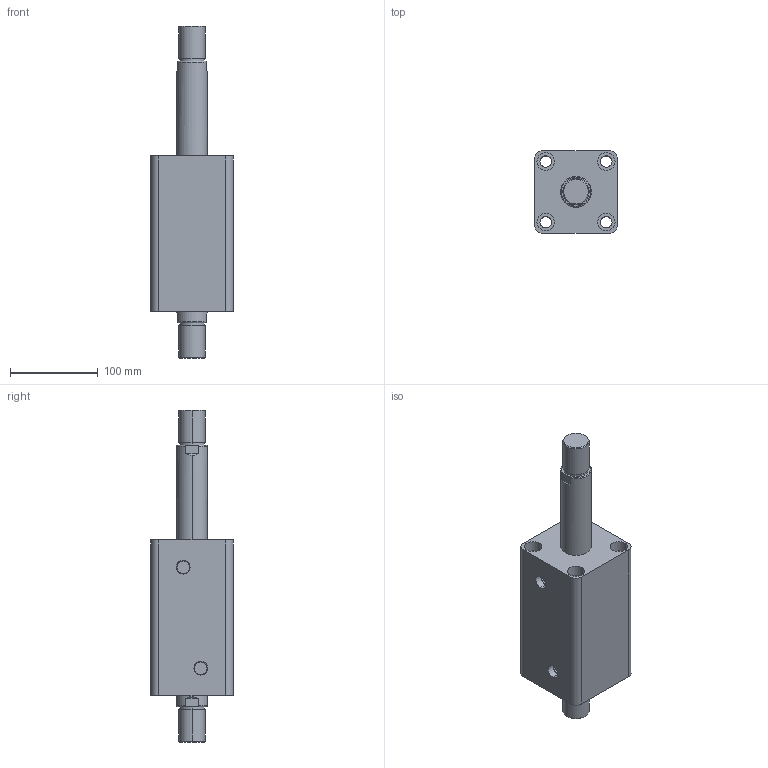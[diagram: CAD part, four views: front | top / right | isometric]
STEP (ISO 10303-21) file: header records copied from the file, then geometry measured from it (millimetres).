
FILE_DESCRIPTION (( 'STEP AP203' ), '1' );
FILE_NAME ('HTB-SW63-95W.STEP', '2019-10-07T10:09:34', ( '微软用户' ), ( '微软中国' ), 'SwSTEP 2.0', 'SolidWorks 2012', '' );
FILE_SCHEMA (( 'CONFIG_CONTROL_DESIGN' ));
Length unit declared in the file: millimetre
Products named in the file (3): HTB-SW63-95W; HTB-SW63-95W活塞杆; HTB-SW63-95掛极
Assembly tree (2 placements, depth 2):
  HTB-SW63-95W
    HTB-SW63-95掛极
    HTB-SW63-95W活塞杆
Bounding box: 94 x 94 x 378 mm (x, y, z)
Volume: 1402034.8 mm3; surface area: 192542.4 mm2
Topology: 2 solids, 2 shells, 108 faces, 240 edges, 156 vertices
Faces by surface type: cylinder 52, plane 36, torus 12, cone 8
Entity records: 3465 total; most frequent: CARTESIAN_POINT 645, DIRECTION 586, ORIENTED_EDGE 480, AXIS2_PLACEMENT_3D 249, EDGE_CURVE 240, VERTEX_POINT 156, EDGE_LOOP 138, CIRCLE 136
